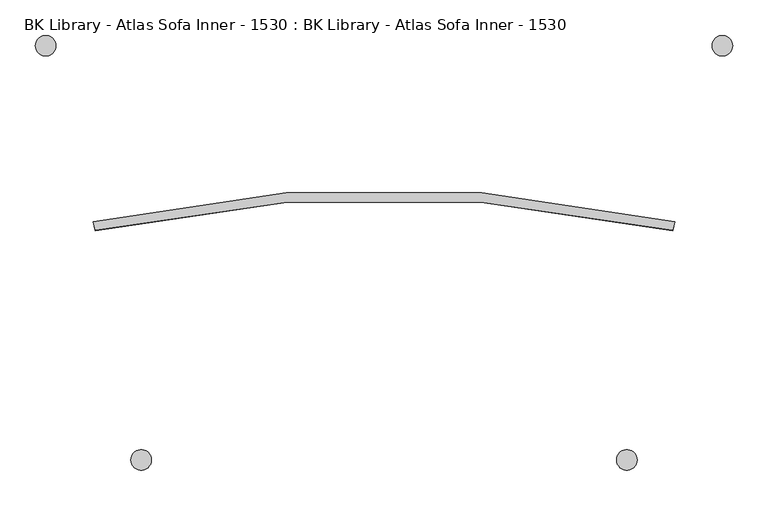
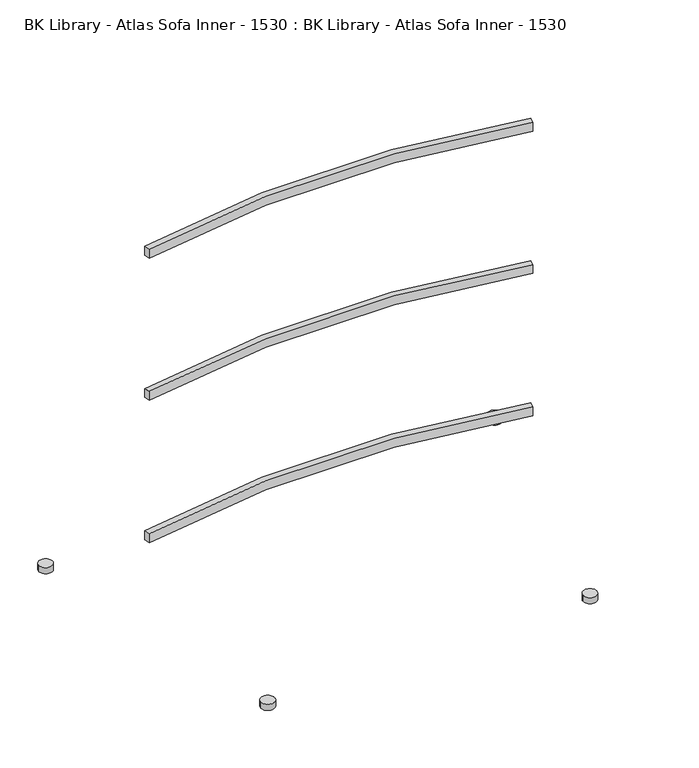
"""IFC4 building model written with IfcOpenShell, lengths in millimetres: furniture geometry, BK Library - Atlas Sofa Inner - 1530 : BK Library - Atlas Sofa Inner - 1530."""

from ifc_helpers import new_model, si_unit, point, frame, frame_2d, origin, origin_with_axes, place, context, project, spatial, polyline, circle_curve, trimmed, segment, composite_curve, outline, extrude, source, transform, mapped, element, save


def bk_library_atlas_sofa_inner_1530_bk_library_atlas_sofa_inner_f51117fb(model_context):
    return source(origin(), model_context, "Body", "SweptSolid", [
        extrude(outline(composite_curve([segment(trimmed(circle_curve(frame_2d((0.0, -1776.6858327)), 1864.3585062), [point((-410.605951, 41.8947656))], [point((410.605951, 41.8947656))], False, "CARTESIAN"), True, "CONTINUOUS"), segment(polyline([(410.605951, 41.8947656), (407.6853202, 29.2289965)]), True, "CONTINUOUS"), segment(trimmed(circle_curve(frame_2d((0.0, -1798.2835703)), 1872.4341116), [point((407.6853202, 29.2289965))], [point((-407.6853202, 29.2289965))], True, "CARTESIAN"), True, "CONTINUOUS"), segment(polyline([(-407.6853202, 29.2289965), (-410.605951, 41.8947656)]), True, "CONTINUOUS")], self_intersect=False)), frame((0.0, 0.0, 193.6999998), z_axis=(0.0, 0.0, 1.0), x_axis=(1.0, 0.0, 0.0)), (0.0, 0.0, 1.0), 20.0),
        extrude(outline(composite_curve([segment(trimmed(circle_curve(frame_2d((0.0, -1776.6858327)), 1864.3585062), [point((-410.605951, 41.8947656))], [point((410.605951, 41.8947656))], False, "CARTESIAN"), True, "CONTINUOUS"), segment(polyline([(410.605951, 41.8947656), (407.6853202, 29.2289965)]), True, "CONTINUOUS"), segment(trimmed(circle_curve(frame_2d((0.0, -1798.2835703)), 1872.4341116), [point((407.6853202, 29.2289965))], [point((-407.6853202, 29.2289965))], True, "CARTESIAN"), True, "CONTINUOUS"), segment(polyline([(-407.6853202, 29.2289965), (-410.605951, 41.8947656)]), True, "CONTINUOUS")], self_intersect=False)), frame((0.0, 0.0, 513.6999998), z_axis=(0.0, 0.0, 1.0), x_axis=(1.0, 0.0, 0.0)), (0.0, 0.0, 1.0), 20.0),
        extrude(outline(composite_curve([segment(trimmed(circle_curve(frame_2d((0.0, -1776.6858327)), 1864.3585062), [point((-410.605951, 41.8947656))], [point((410.605951, 41.8947656))], False, "CARTESIAN"), True, "CONTINUOUS"), segment(polyline([(410.605951, 41.8947656), (407.6853202, 29.2289965)]), True, "CONTINUOUS"), segment(trimmed(circle_curve(frame_2d((0.0, -1798.2835703)), 1872.4341116), [point((407.6853202, 29.2289965))], [point((-407.6853202, 29.2289965))], True, "CARTESIAN"), True, "CONTINUOUS"), segment(polyline([(-407.6853202, 29.2289965), (-410.605951, 41.8947656)]), True, "CONTINUOUS")], self_intersect=False)), frame((0.0, 0.0, 833.6999998), z_axis=(0.0, 0.0, 1.0), x_axis=(1.0, 0.0, 0.0)), (0.0, 0.0, 1.0), 20.0),
        extrude(outline(composite_curve([segment(trimmed(circle_curve(frame_2d((477.608406, 290.1883722)), 14.4994573), [point((492.1078633, 290.1883722))], [point((463.1089486, 290.1883722))], False, "CARTESIAN"), True, "CONTINUOUS"), segment(trimmed(circle_curve(frame_2d((477.608406, 290.1883722)), 14.4994573), [point((463.1089486, 290.1883722))], [point((492.1078633, 290.1883722))], False, "CARTESIAN"), True, "CONTINUOUS")], self_intersect=False)), origin_with_axes(), (0.0, 0.0, 1.0), 13.6999998),
        extrude(outline(composite_curve([segment(trimmed(circle_curve(frame_2d((-477.608406, 290.1883722)), 14.4994573), [point((-492.1078633, 290.1883722))], [point((-463.1089486, 290.1883722))], False, "CARTESIAN"), True, "CONTINUOUS"), segment(trimmed(circle_curve(frame_2d((-477.608406, 290.1883722)), 14.4994573), [point((-463.1089486, 290.1883722))], [point((-492.1078633, 290.1883722))], False, "CARTESIAN"), True, "CONTINUOUS")], self_intersect=False)), origin_with_axes(), (0.0, 0.0, 1.0), 13.6999998),
        extrude(outline(composite_curve([segment(trimmed(circle_curve(frame_2d((342.7923392, -294.4590973)), 14.4994573), [point((357.2917965, -294.4590973))], [point((328.2928818, -294.4590973))], False, "CARTESIAN"), True, "CONTINUOUS"), segment(trimmed(circle_curve(frame_2d((342.7923392, -294.4590973)), 14.4994573), [point((328.2928818, -294.4590973))], [point((357.2917965, -294.4590973))], False, "CARTESIAN"), True, "CONTINUOUS")], self_intersect=False)), origin_with_axes(), (0.0, 0.0, 1.0), 13.6999998),
        extrude(outline(composite_curve([segment(trimmed(circle_curve(frame_2d((-342.7923392, -294.4590973)), 14.4994573), [point((-357.2917965, -294.4590973))], [point((-328.2928818, -294.4590973))], False, "CARTESIAN"), True, "CONTINUOUS"), segment(trimmed(circle_curve(frame_2d((-342.7923392, -294.4590973)), 14.4994573), [point((-328.2928818, -294.4590973))], [point((-357.2917965, -294.4590973))], False, "CARTESIAN"), True, "CONTINUOUS")], self_intersect=False)), origin_with_axes(), (0.0, 0.0, 1.0), 13.6999998),
    ])


if __name__ == "__main__":
    model = new_model("IFC4")
    model_context = context("Model", 3, world=origin())
    ifc_project = project(units=[si_unit("LENGTHUNIT", "METRE", prefix="MILLI")], contexts=[model_context])
    site = spatial("IfcSite", under=ifc_project)
    building = spatial("IfcBuilding", under=site)
    placement = place(None, origin())
    bk_library_atlas_sofa_inner_1530_bk_library_atlas_sofa_inner_shape = bk_library_atlas_sofa_inner_1530_bk_library_atlas_sofa_inner_f51117fb(model_context)
    element("IfcFurniture", 1, ObjectType="BK Library - Atlas Sofa Inner - 1530 : BK Library - Atlas Sofa Inner - 1530", at=placement, inside=building, context=model_context, shape_type="MappedRepresentation", body=[
        mapped(bk_library_atlas_sofa_inner_1530_bk_library_atlas_sofa_inner_shape, transform((0.0, 0.0, 0.0), x_axis=(1.0, 0.0, 0.0), y_axis=(0.0, 1.0, 0.0), z_axis=(0.0, 0.0, 1.0))),
    ])
    save(model, "model.ifc")
